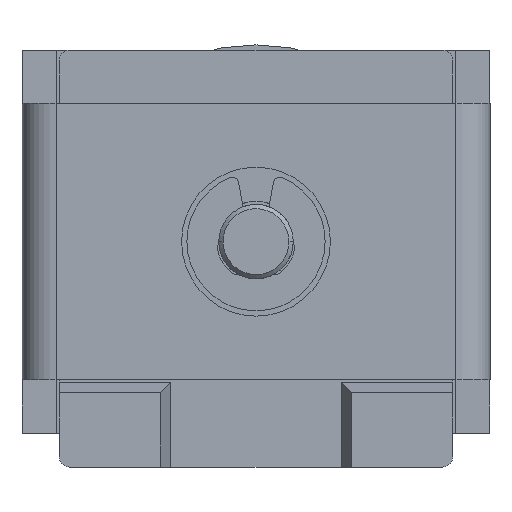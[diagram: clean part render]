
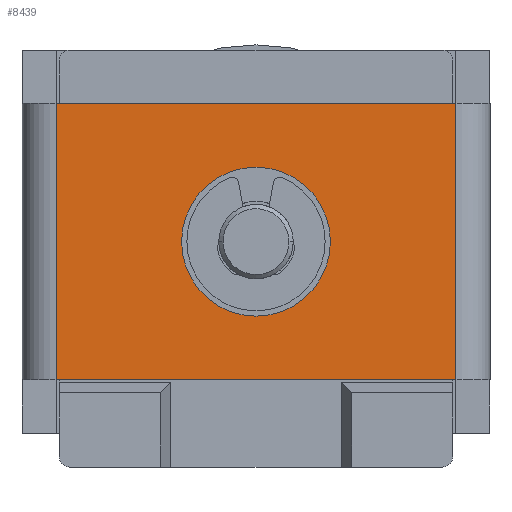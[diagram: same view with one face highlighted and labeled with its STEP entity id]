
A CAD part, front view. The second image highlights one B-rep face of the part: STEP entity #8439.
In plain terms, the highlighted planar face has unit normal (0, -1, 0) as drawn and (0, 1, 0) by its records, which use the part's own axes.
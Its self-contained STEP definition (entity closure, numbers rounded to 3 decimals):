
#471 = DIRECTION ( 'NONE',  ( 0., 0., -1. ) ) ;
#728 = DIRECTION ( 'NONE',  ( -1., 0., 0. ) ) ;
#1452 = CARTESIAN_POINT ( 'NONE',  ( 0., 29.6, -9. ) ) ;
#1865 = CARTESIAN_POINT ( 'NONE',  ( -2.5, 29.6, -9. ) ) ;
#1919 = ORIENTED_EDGE ( 'NONE', *, *, #6204, .T. ) ;
#2195 = CARTESIAN_POINT ( 'NONE',  ( 2.5, 29.6, -9. ) ) ;
#2228 = DIRECTION ( 'NONE',  ( 0., -1., 0. ) ) ;
#2364 = LINE ( 'NONE', #4464, #3061 ) ;
#2540 = DIRECTION ( 'NONE',  ( -1., 0., 0. ) ) ;
#2548 = AXIS2_PLACEMENT_3D ( 'NONE', #7663, #2228, #9399 ) ;
#2688 = DIRECTION ( 'NONE',  ( 0., 0., -1. ) ) ;
#2884 = VERTEX_POINT ( 'NONE', #7448 ) ;
#3061 = VECTOR ( 'NONE', #2688, 1000. ) ;
#3132 = PLANE ( 'NONE',  #2548 ) ;
#3389 = ORIENTED_EDGE ( 'NONE', *, *, #5916, .F. ) ;
#3431 = ORIENTED_EDGE ( 'NONE', *, *, #6538, .F. ) ;
#4137 = DIRECTION ( 'NONE',  ( 0., 0., -1. ) ) ;
#4326 = CARTESIAN_POINT ( 'NONE',  ( -9.4, 29.6, -15.5 ) ) ;
#4363 = FACE_OUTER_BOUND ( 'NONE', #10272, .T. ) ;
#4464 = CARTESIAN_POINT ( 'NONE',  ( 9.4, 29.6, 0. ) ) ;
#4583 = CIRCLE ( 'NONE', #7030, 2.5 ) ;
#5599 = EDGE_CURVE ( 'NONE', #11547, #6681, #5962, .T. ) ;
#5610 = CARTESIAN_POINT ( 'NONE',  ( 9.4, 29.6, -2.5 ) ) ;
#5902 = FACE_BOUND ( 'NONE', #11244, .T. ) ;
#5916 = EDGE_CURVE ( 'NONE', #10539, #2884, #9194, .T. ) ;
#5962 = CIRCLE ( 'NONE', #10071, 2.5 ) ;
#6204 = EDGE_CURVE ( 'NONE', #10539, #10028, #2364, .T. ) ;
#6315 = VECTOR ( 'NONE', #2540, 1000. ) ;
#6538 = EDGE_CURVE ( 'NONE', #6681, #11547, #4583, .T. ) ;
#6681 = VERTEX_POINT ( 'NONE', #1865 ) ;
#6857 = VECTOR ( 'NONE', #10429, 1000. ) ;
#7030 = AXIS2_PLACEMENT_3D ( 'NONE', #1452, #10287, #4137 ) ;
#7448 = CARTESIAN_POINT ( 'NONE',  ( -9.4, 29.6, -2.5 ) ) ;
#7568 = DIRECTION ( 'NONE',  ( 0., 1., 0. ) ) ;
#7580 = ORIENTED_EDGE ( 'NONE', *, *, #10677, .T. ) ;
#7622 = CARTESIAN_POINT ( 'NONE',  ( -9.4, 29.6, 0. ) ) ;
#7663 = CARTESIAN_POINT ( 'NONE',  ( 9.4, 29.6, 0. ) ) ;
#7849 = ORIENTED_EDGE ( 'NONE', *, *, #5599, .F. ) ;
#7856 = CARTESIAN_POINT ( 'NONE',  ( 11., 29.6, -15.5 ) ) ;
#8071 = ORIENTED_EDGE ( 'NONE', *, *, #8813, .T. ) ;
#8439 = ADVANCED_FACE ( 'NONE', ( #5902, #4363 ), #3132, .F. ) ;
#8805 = VERTEX_POINT ( 'NONE', #4326 ) ;
#8813 = EDGE_CURVE ( 'NONE', #10028, #8805, #9243, .T. ) ;
#9194 = LINE ( 'NONE', #11434, #9472 ) ;
#9243 = LINE ( 'NONE', #7856, #6315 ) ;
#9286 = CARTESIAN_POINT ( 'NONE',  ( 9.4, 29.6, -15.5 ) ) ;
#9300 = CARTESIAN_POINT ( 'NONE',  ( 0., 29.6, -9. ) ) ;
#9399 = DIRECTION ( 'NONE',  ( 0., 0., 1. ) ) ;
#9472 = VECTOR ( 'NONE', #728, 1000. ) ;
#10028 = VERTEX_POINT ( 'NONE', #9286 ) ;
#10058 = LINE ( 'NONE', #7622, #6857 ) ;
#10071 = AXIS2_PLACEMENT_3D ( 'NONE', #9300, #7568, #471 ) ;
#10272 = EDGE_LOOP ( 'NONE', ( #1919, #8071, #7580, #3389 ) ) ;
#10287 = DIRECTION ( 'NONE',  ( 0., 1., 0. ) ) ;
#10429 = DIRECTION ( 'NONE',  ( 0., 0., 1. ) ) ;
#10539 = VERTEX_POINT ( 'NONE', #5610 ) ;
#10677 = EDGE_CURVE ( 'NONE', #8805, #2884, #10058, .T. ) ;
#11244 = EDGE_LOOP ( 'NONE', ( #7849, #3431 ) ) ;
#11434 = CARTESIAN_POINT ( 'NONE',  ( 11., 29.6, -2.5 ) ) ;
#11547 = VERTEX_POINT ( 'NONE', #2195 ) ;
